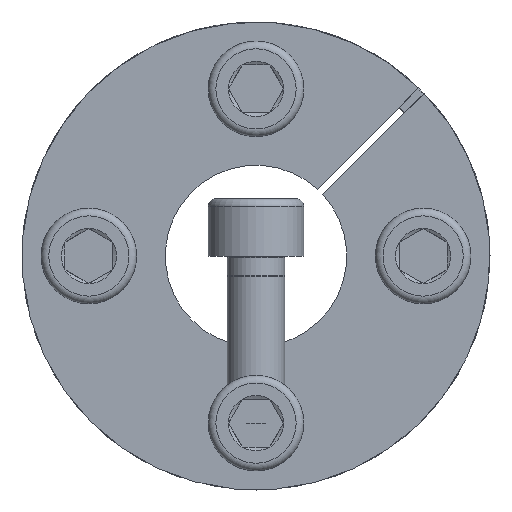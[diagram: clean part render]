
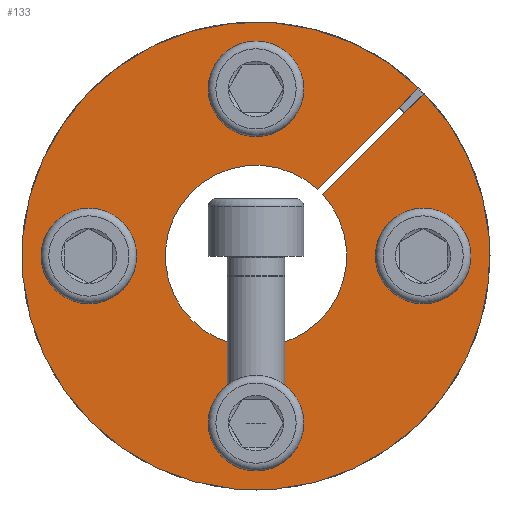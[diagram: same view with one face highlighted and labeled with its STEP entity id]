
A CAD part, front view. The second image highlights one B-rep face of the part: STEP entity #133.
In plain terms, the highlighted planar face has unit normal (0, -1, 0).
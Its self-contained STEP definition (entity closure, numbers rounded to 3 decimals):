
#133 = ADVANCED_FACE( '', ( #248, #249, #250, #251, #252 ), #253, .F. );
#248 = FACE_BOUND( '', #368, .T. );
#249 = FACE_BOUND( '', #369, .T. );
#250 = FACE_BOUND( '', #370, .T. );
#251 = FACE_BOUND( '', #371, .T. );
#252 = FACE_OUTER_BOUND( '', #372, .T. );
#253 = PLANE( '', #373 );
#368 = EDGE_LOOP( '', ( #672 ) );
#369 = EDGE_LOOP( '', ( #673 ) );
#370 = EDGE_LOOP( '', ( #674 ) );
#371 = EDGE_LOOP( '', ( #675 ) );
#372 = EDGE_LOOP( '', ( #676, #677, #678, #679 ) );
#373 = AXIS2_PLACEMENT_3D( '', #680, #681, #682 );
#672 = ORIENTED_EDGE( '', *, *, #1019, .T. );
#673 = ORIENTED_EDGE( '', *, *, #1016, .T. );
#674 = ORIENTED_EDGE( '', *, *, #1020, .T. );
#675 = ORIENTED_EDGE( '', *, *, #954, .T. );
#676 = ORIENTED_EDGE( '', *, *, #984, .T. );
#677 = ORIENTED_EDGE( '', *, *, #959, .T. );
#678 = ORIENTED_EDGE( '', *, *, #1010, .T. );
#679 = ORIENTED_EDGE( '', *, *, #1008, .F. );
#680 = CARTESIAN_POINT( '', ( 0., 0., 24.5 ) );
#681 = DIRECTION( '', ( 0., 1., 0. ) );
#682 = DIRECTION( '', ( 0., 0., 1. ) );
#954 = EDGE_CURVE( '', #1280, #1280, #1281, .T. );
#959 = EDGE_CURVE( '', #1284, #1288, #1290, .T. );
#984 = EDGE_CURVE( '', #1318, #1284, #1331, .T. );
#1008 = EDGE_CURVE( '', #1318, #1362, #1364, .T. );
#1010 = EDGE_CURVE( '', #1288, #1362, #1366, .T. );
#1016 = EDGE_CURVE( '', #1372, #1372, #1373, .T. );
#1019 = EDGE_CURVE( '', #1376, #1376, #1377, .T. );
#1020 = EDGE_CURVE( '', #1378, #1378, #1379, .T. );
#1280 = VERTEX_POINT( '', #1977 );
#1281 = CIRCLE( '', #1978, 3. );
#1284 = VERTEX_POINT( '', #1981 );
#1288 = VERTEX_POINT( '', #1986 );
#1290 = CIRCLE( '', #1989, 24.5 );
#1318 = VERTEX_POINT( '', #2021 );
#1331 = LINE( '', #2050, #2051 );
#1362 = VERTEX_POINT( '', #2091 );
#1364 = CIRCLE( '', #2094, 9.5 );
#1366 = LINE( '', #2096, #2097 );
#1372 = VERTEX_POINT( '', #2109 );
#1373 = CIRCLE( '', #2110, 3. );
#1376 = VERTEX_POINT( '', #2113 );
#1377 = CIRCLE( '', #2114, 3. );
#1378 = VERTEX_POINT( '', #2115 );
#1379 = CIRCLE( '', #2116, 3. );
#1977 = CARTESIAN_POINT( '', ( -17.5, 0., 3. ) );
#1978 = AXIS2_PLACEMENT_3D( '', #2271, #2272, #2273 );
#1981 = CARTESIAN_POINT( '', ( 17.049, 0., 17.595 ) );
#1986 = CARTESIAN_POINT( '', ( 17.595, 0., 17.049 ) );
#1989 = AXIS2_PLACEMENT_3D( '', #2279, #2280, #2281 );
#2021 = CARTESIAN_POINT( '', ( 6.439, 0., 6.985 ) );
#2050 = CARTESIAN_POINT( '', ( 6.439, 0., 6.985 ) );
#2051 = VECTOR( '', #2311, 1000. );
#2091 = CARTESIAN_POINT( '', ( 6.985, 0., 6.439 ) );
#2094 = AXIS2_PLACEMENT_3D( '', #2343, #2344, #2345 );
#2096 = CARTESIAN_POINT( '', ( 17.597, 0., 17.051 ) );
#2097 = VECTOR( '', #2346, 1000. );
#2109 = CARTESIAN_POINT( '', ( 17.5, 0., -3. ) );
#2110 = AXIS2_PLACEMENT_3D( '', #2350, #2351, #2352 );
#2113 = CARTESIAN_POINT( '', ( 3., 0., 17.5 ) );
#2114 = AXIS2_PLACEMENT_3D( '', #2353, #2354, #2355 );
#2115 = CARTESIAN_POINT( '', ( -3., 0., -17.5 ) );
#2116 = AXIS2_PLACEMENT_3D( '', #2356, #2357, #2358 );
#2271 = CARTESIAN_POINT( '', ( -17.5, 0., 0. ) );
#2272 = DIRECTION( '', ( 0., 1., 0. ) );
#2273 = DIRECTION( '', ( 0., 0., 1. ) );
#2279 = CARTESIAN_POINT( '', ( 0., 0., 0. ) );
#2280 = DIRECTION( '', ( 0., -1., 0. ) );
#2281 = DIRECTION( '', ( 0., 0., -1. ) );
#2311 = DIRECTION( '', ( 0.707, 0., 0.707 ) );
#2343 = CARTESIAN_POINT( '', ( 0., 0., 0. ) );
#2344 = DIRECTION( '', ( 0., -1., 0. ) );
#2345 = DIRECTION( '', ( 0., 0., -1. ) );
#2346 = DIRECTION( '', ( -0.707, 0., -0.707 ) );
#2350 = CARTESIAN_POINT( '', ( 17.5, 0., 0. ) );
#2351 = DIRECTION( '', ( 0., 1., 0. ) );
#2352 = DIRECTION( '', ( 0., 0., -1. ) );
#2353 = CARTESIAN_POINT( '', ( 0., 0., 17.5 ) );
#2354 = DIRECTION( '', ( 0., 1., 0. ) );
#2355 = DIRECTION( '', ( 1., 0., 0. ) );
#2356 = CARTESIAN_POINT( '', ( 0., 0., -17.5 ) );
#2357 = DIRECTION( '', ( 0., 1., 0. ) );
#2358 = DIRECTION( '', ( -1., 0., 0. ) );
